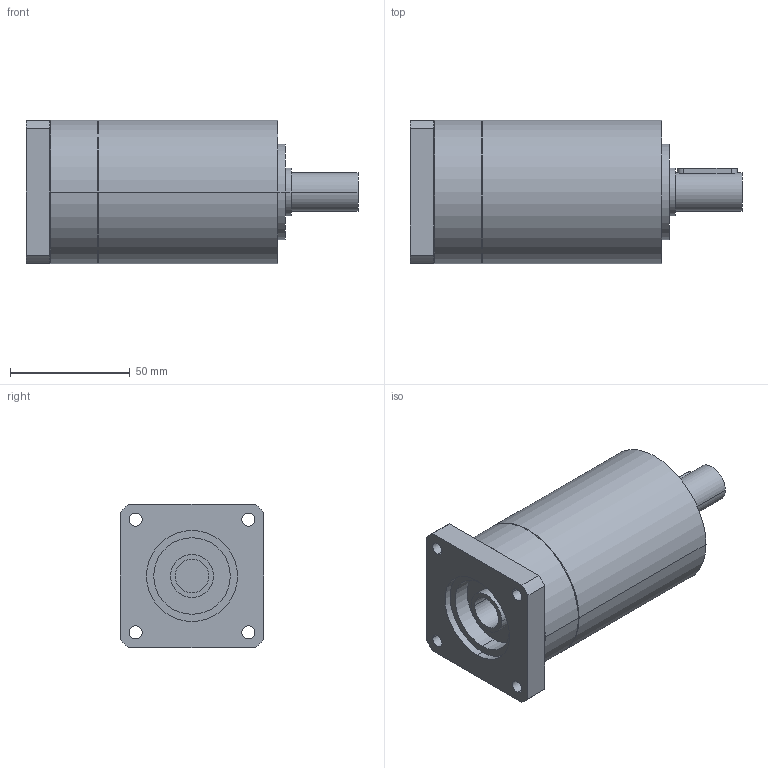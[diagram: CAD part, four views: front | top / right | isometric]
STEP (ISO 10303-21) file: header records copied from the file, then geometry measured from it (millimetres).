
FILE_DESCRIPTION(('CoCreate Modeling STEP Export'),'2;1');
FILE_NAME('GPR75_ig-9-12-16-20-24-30-36_16_B14_14_P02.stp','2014-08-25T16:45:06',(''),(''),'CoCreate Modeling STEP processor for AP214 (Solid Model)','CoCreate Modeling 16.00C 25-Feb-2009 (C) Parametric Technology GmbH','');
FILE_SCHEMA(('AUTOMOTIVE_DESIGN { 1 0 10303 214 1 1 1 1 }'));
Length unit declared in the file: millimetre
Products named in the file (2): GPR75_ig-9-12-16-20-24-30-36_16_B14_14_P02
Assembly tree (1 placements, depth 2):
  GPR75_ig-9-12-16-20-24-30-36_16_B14_14_P02
    GPR75_ig-9-12-16-20-24-30-36_16_B14_14_P02
Bounding box: 138.9 x 60 x 60 mm (x, y, z)
Volume: 300828.6 mm3; surface area: 33819.3 mm2
Topology: 1 solids, 1 shells, 86 faces, 232 edges, 160 vertices
Faces by surface type: cylinder 50, plane 30, cone 6
Entity records: 2317 total; most frequent: ORIENTED_EDGE 460, CARTESIAN_POINT 418, DIRECTION 314, EDGE_CURVE 230, VERTEX_POINT 160, AXIS2_PLACEMENT_3D 120, EDGE_LOOP 108, FACE_OUTER_BOUND 86
